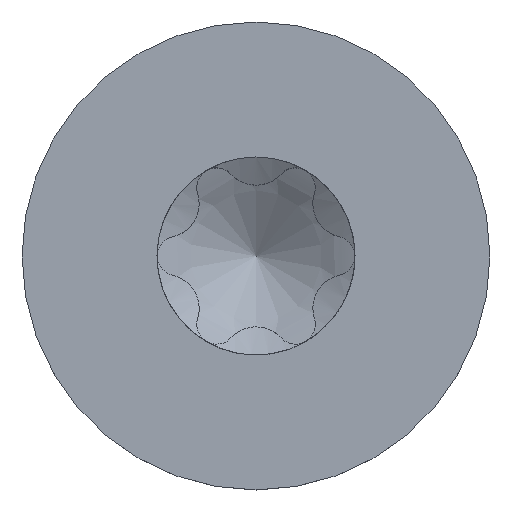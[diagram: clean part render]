
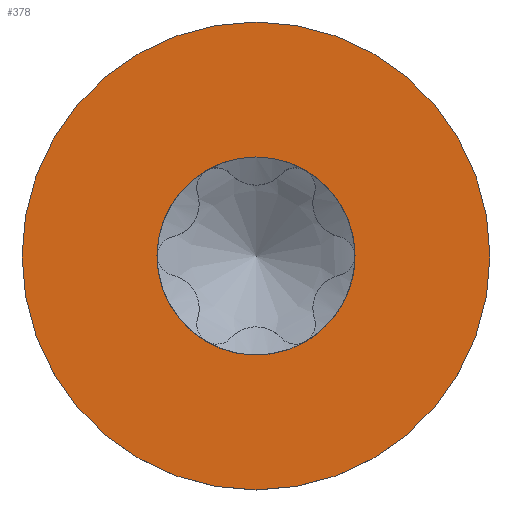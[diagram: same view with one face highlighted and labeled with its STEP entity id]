
A CAD part, top view. The second image highlights one B-rep face of the part: STEP entity #378.
In plain terms, the highlighted planar face has unit normal (0, 0, 1).
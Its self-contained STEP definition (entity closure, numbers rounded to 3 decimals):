
#335=PLANE('',#1865);
#342=FACE_BOUND('',#616,.T.);
#343=FACE_BOUND('',#617,.T.);
#378=ADVANCED_FACE('',(#342,#343),#335,.F.);
#616=EDGE_LOOP('',(#951));
#617=EDGE_LOOP('',(#952));
#951=ORIENTED_EDGE('',*,*,#1632,.F.);
#952=ORIENTED_EDGE('',*,*,#1633,.F.);
#1472=VERTEX_POINT('',#4322);
#1473=VERTEX_POINT('',#4324);
#1632=EDGE_CURVE('',#1472,#1472,#1845,.T.);
#1633=EDGE_CURVE('',#1473,#1473,#1846,.T.);
#1845=CIRCLE('',#1863,3.385);
#1846=CIRCLE('',#1864,8.);
#1863=AXIS2_PLACEMENT_3D('',#4321,#1913,#1914);
#1864=AXIS2_PLACEMENT_3D('',#4323,#1915,#1916);
#1865=AXIS2_PLACEMENT_3D('',#4325,#1917,#1918);
#1913=DIRECTION('',(0.,0.,1.));
#1914=DIRECTION('',(-1.,0.,0.));
#1915=DIRECTION('',(0.,0.,-1.));
#1916=DIRECTION('',(-1.,0.,0.));
#1917=DIRECTION('',(0.,0.,-1.));
#1918=DIRECTION('',(-1.,0.,0.));
#4321=CARTESIAN_POINT('',(0.,0.,5.815));
#4322=CARTESIAN_POINT('',(-3.385,0.,5.815));
#4323=CARTESIAN_POINT('',(0.,0.,5.815));
#4324=CARTESIAN_POINT('',(-8.,0.,5.815));
#4325=CARTESIAN_POINT('',(0.,0.,5.815));
